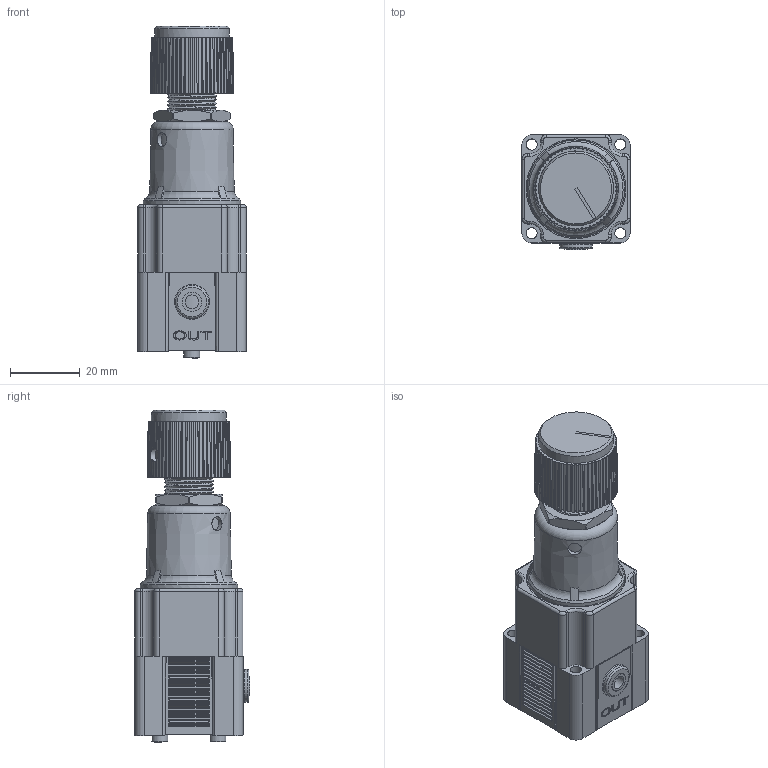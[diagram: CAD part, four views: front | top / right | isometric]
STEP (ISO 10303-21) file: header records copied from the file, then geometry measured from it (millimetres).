
FILE_DESCRIPTION(/* description */ (''),/* implementation_level */ '2;1');
FILE_NAME(/* name */ 'K:\Normteile INVENTOR\Air-Logic\Regulators\R6000\R 6___ 0 10-32 UNF Threads Out.igs.ipt.stp',/* time_stamp */ '2020-05-27T10:56:47+02:00',/* author */ ('Paul'),/* organization */ (''),/* preprocessor_version */ 'ST-DEVELOPER v18',/* originating_system */ 'Autodesk Inventor 2020',/* authorisation */ '');
FILE_SCHEMA (('AUTOMOTIVE_DESIGN { 1 0 10303 214 3 1 1 }'));
Length unit declared in the file: inch
Products named in the file (1): R 6___ 0 10-32 UNF Threads Out.igs
Bounding box: 31.19 x 32.97 x 95.02 mm (x, y, z)
Volume: 56157.4 mm3; surface area: 17134.3 mm2
Topology: 1 solids, 1 shells, 971 faces, 2506 edges, 1614 vertices
Faces by surface type: plane 473, cylinder 347, cone 83, bspline 35, torus 33
Full cylindrical faces by diameter (mm): 1.194 x1, 2.032 x1, 3.124 x2, 3.175 x8, 3.962 x1, 3.988 x1, 4.064 x1, 4.521 x2, 5.486 x1, 6.248 x1, 8.382 x2, 9.169 x1, 9.398 x1, 9.652 x1, 12.903 x1, 19.406 x1, 21.476 x1, 27.94 x1, 28.575 x1
Entity records: 35927 total; most frequent: CARTESIAN_POINT 10693, DIRECTION 5280, ORIENTED_EDGE 5012, EDGE_CURVE 2506, AXIS2_PLACEMENT_3D 2048, VERTEX_POINT 1614, LINE 1184, VECTOR 1184
